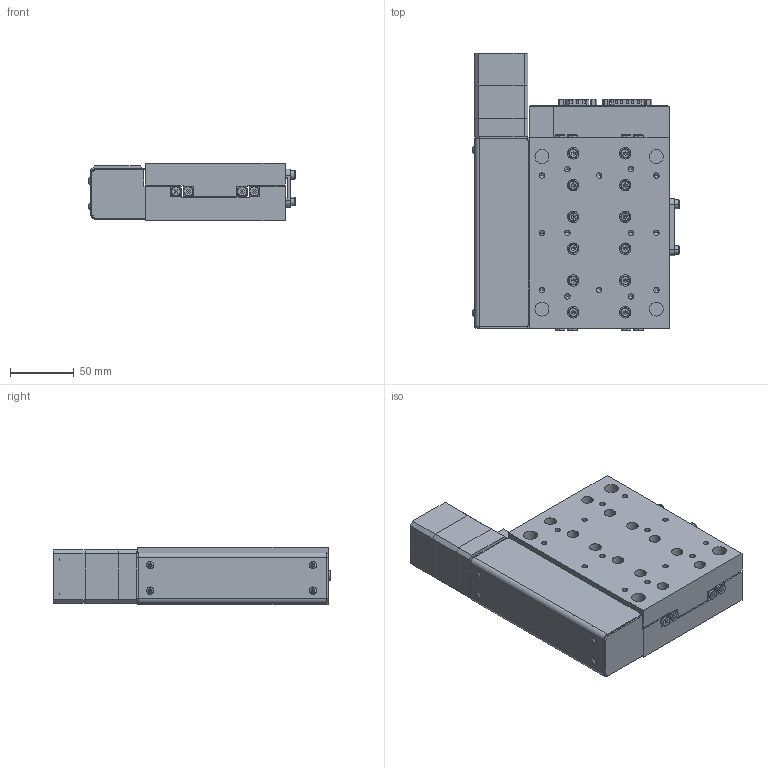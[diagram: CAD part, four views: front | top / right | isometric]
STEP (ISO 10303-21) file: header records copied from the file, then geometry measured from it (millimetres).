
FILE_DESCRIPTION (( 'STEP AP214' ), '1' );
FILE_NAME ('LNS-050-BS-A-M-S-D-EXPORT.STEP', '2025-06-27T18:06:42', ( 'lab' ), ( '' ), 'SwSTEP 2.0', 'SolidWorks 2018', '' );
FILE_SCHEMA (( 'AUTOMOTIVE_DESIGN' ));
Length unit declared in the file: millimetre
Products named in the file (10): 1000014_file_export23; 1000015_file_export21; 1000010_file_export16; LNS-050-BS-A-M-S-D-EXPORT; 1000013_file_export22; 1000012_file_export17; 1000011_file_export14; 1000007_file_export9; 1000008_file_export10; 1000001_file_export0
Assembly tree (15 placements, depth 2):
  LNS-050-BS-A-M-S-D-EXPORT
    1000001_file_export0
    1000007_file_export9
    1000008_file_export10
    1000010_file_export16  x4
    1000011_file_export14
    1000012_file_export17
    1000013_file_export22  x4
    1000014_file_export23
    1000015_file_export21
Bounding box: 162.5 x 218.25 x 45 mm (x, y, z)
Volume: 1125131.8 mm3; surface area: 225787.4 mm2
Topology: 71 solids, 71 shells, 1730 faces, 3916 edges, 2367 vertices
Faces by surface type: plane 1066, cylinder 326, bspline 170, cone 160, torus 8
Entity records: 54706 total; most frequent: CARTESIAN_POINT 13650, DIRECTION 7118, ORIENTED_EDGE 7072, EDGE_CURVE 3536, AXIS2_PLACEMENT_3D 2398, LINE 2322, VECTOR 2322, VERTEX_POINT 2190
